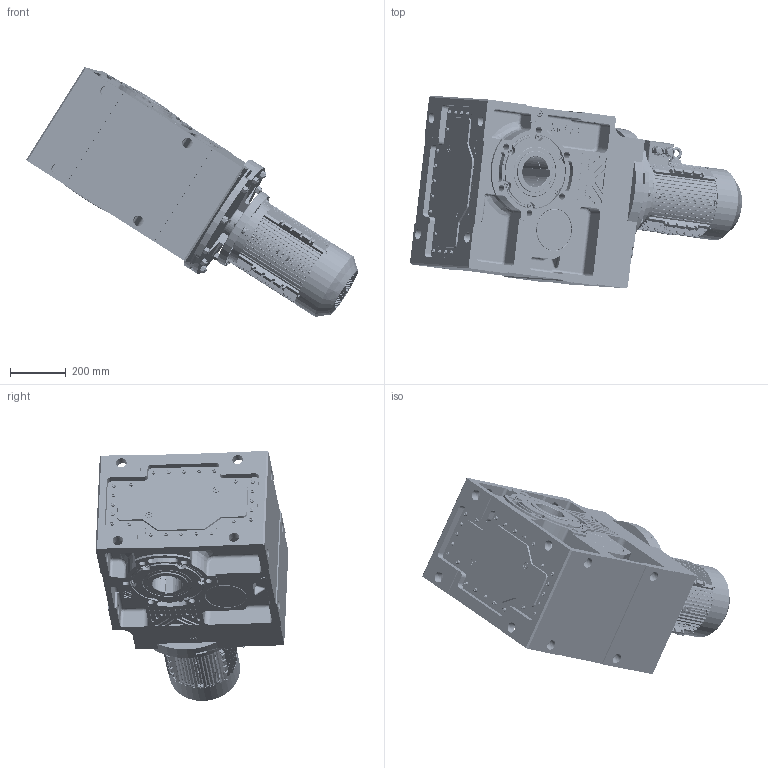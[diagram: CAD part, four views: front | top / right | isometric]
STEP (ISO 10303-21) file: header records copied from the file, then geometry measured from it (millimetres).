
FILE_DESCRIPTION (( 'STEP AP203' ), '1' );
FILE_NAME ('KV_873_0_MX3-132M.STEP', '2018-11-21T08:52:06', ( '' ), ( '' ), 'SwSTEP 2.0', 'SolidWorks 2012', '' );
FILE_SCHEMA (( 'CONFIG_CONTROL_DESIGN' ));
Products named in the file (25): 132ÀþiÍ; deep groove ball bearings gb_Rolling bearings 6308 GB 276-94_1; 132 瞬++-4; ML23A_Varsayìlan; 132M 俓; 132B3ﾂ-ｩﾃ; 132M B5+ｷ+ﾃ; K873_Varsayìlan; 83A132B5_Varsayìlan; MX3-132M_B5; hexagon flange head tapping screws gb_GB_SQUARE_AND_HEXAGON_TYPE137 ST4.2X9.5 C-N; cross recessed pan head screws gb_GB_CROSS_SCREWS_TYPE1 M5X12-12  H type-N_1; KV_873_0_MX3-132M; circlips for shaft--type a large gb_GB_CONNECTING_PIECE_RING_RRA 28; spring lock washers--normal type gb_GB_FASTENER_WASHER_SW 8_1; hex nuts, style 1-grades ab gb_GB_FASTENER_NUT_SNAB1 M8-N; hexagon socket head cap screws gb_GB_FASTENER_SCREWS_HSHCS M8X40-N_1; plain parallel keys_GB_CONNECTING_PIECE_KEYS_CSK 10X70_1; 132M B5ﾂ-ｩﾃ; hexagon socket head cap screws gb_GB_FASTENER_SCREWS_HSHCS M8X45-N; eyebolts gb_GB_FASTENER_SCREWS_FRS M10-N_1; 132〩仁佞怔; -戌呲25; ﾋ-ﾀﾔ40X58X7; 132〩仁佞蹉峔
Assembly tree (52 placements, depth 3):
  KV_873_0_MX3-132M
    K873_Varsayìlan
    83A132B5_Varsayìlan
    ML23A_Varsayìlan
    MX3-132M_B5
      132M B5+ｷ+ﾃ
      132B3ﾂ-ｩﾃ
      132M 俓
      deep groove ball bearings gb_Rolling bearings 6308 GB 276-94_1  x2
      132 瞬++-4
      132ÀþiÍ
      132〩仁佞蹉峔
      132〩仁佞怔
      -戌呲25  x2
      ﾋ-ﾀﾔ40X58X7
      plain parallel keys_GB_CONNECTING_PIECE_KEYS_CSK 10X70_1
      eyebolts gb_GB_FASTENER_SCREWS_FRS M10-N_1
      132M B5ﾂ-ｩﾃ
      hexagon socket head cap screws gb_GB_FASTENER_SCREWS_HSHCS M8X45-N  x4
      spring lock washers--normal type gb_GB_FASTENER_WASHER_SW 8_1  x8
      hex nuts, style 1-grades ab gb_GB_FASTENER_NUT_SNAB1 M8-N  x7
      hexagon socket head cap screws gb_GB_FASTENER_SCREWS_HSHCS M8X40-N_1  x5
      circlips for shaft--type a large gb_GB_CONNECTING_PIECE_RING_RRA 28
      hexagon flange head tapping screws gb_GB_SQUARE_AND_HEXAGON_TYPE137 ST4.2X9.5 C-N  x4
      cross recessed pan head screws gb_GB_CROSS_SCREWS_TYPE1 M5X12-12  H type-N_1  x4
Bounding box: 1191.5 x 691.68 x 896.92 mm (x, y, z)
Volume: 12969967.3 mm3; surface area: 5809101.3 mm2
Topology: 51 solids, 102 shells, 10021 faces, 25622 edges, 15689 vertices
Faces by surface type: plane 3512, cylinder 2603, bspline 2398, cone 966, torus 404, sphere 138
Entity records: 376472 total; most frequent: CARTESIAN_POINT 166005, ORIENTED_EDGE 46950, DIRECTION 37893, EDGE_CURVE 23495, VERTEX_POINT 14527, AXIS2_PLACEMENT_3D 13834, VECTOR 10225, LINE 10225
